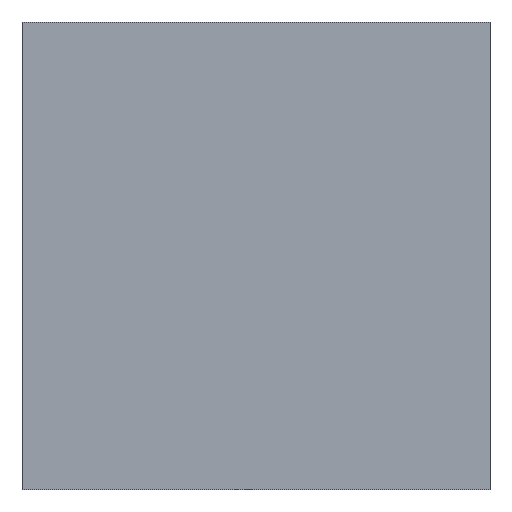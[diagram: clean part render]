
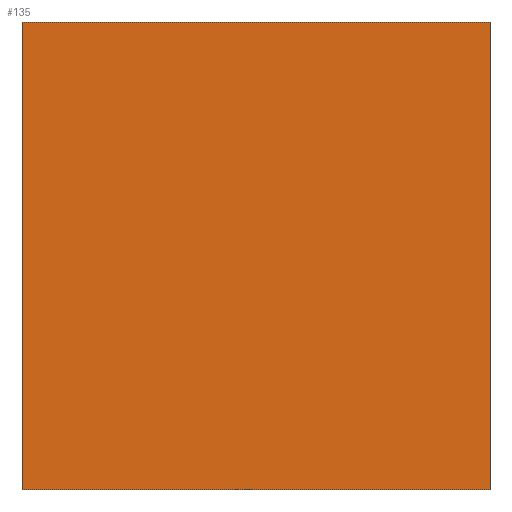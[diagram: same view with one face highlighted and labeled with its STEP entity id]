
A CAD part, front view. The second image highlights one B-rep face of the part: STEP entity #135.
In plain terms, the highlighted planar face has unit normal (0, -1, 0).
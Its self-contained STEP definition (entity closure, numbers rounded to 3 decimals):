
#21 = EDGE_CURVE('',#22,#24,#26,.T.);
#22 = VERTEX_POINT('',#23);
#23 = CARTESIAN_POINT('',(-32.,-39.,9.8));
#24 = VERTEX_POINT('',#25);
#25 = CARTESIAN_POINT('',(-32.,-39.,11.6));
#26 = SURFACE_CURVE('',#27,(#31,#43),.PCURVE_S1.);
#27 = LINE('',#28,#29);
#28 = CARTESIAN_POINT('',(-32.,-39.,9.8));
#29 = VECTOR('',#30,1.);
#30 = DIRECTION('',(0.,0.,1.));
#31 = PCURVE('',#32,#37);
#32 = PLANE('',#33);
#33 = AXIS2_PLACEMENT_3D('',#34,#35,#36);
#34 = CARTESIAN_POINT('',(-32.,-39.,9.8));
#35 = DIRECTION('',(1.,0.,0.));
#36 = DIRECTION('',(0.,0.,1.));
#37 = DEFINITIONAL_REPRESENTATION('',(#38),#42);
#38 = LINE('',#39,#40);
#39 = CARTESIAN_POINT('',(0.,0.));
#40 = VECTOR('',#41,1.);
#41 = DIRECTION('',(1.,0.));
#42 = ( GEOMETRIC_REPRESENTATION_CONTEXT(2) 
PARAMETRIC_REPRESENTATION_CONTEXT() REPRESENTATION_CONTEXT('2D SPACE',''
  ) );
#43 = PCURVE('',#44,#49);
#44 = PLANE('',#45);
#45 = AXIS2_PLACEMENT_3D('',#46,#47,#48);
#46 = CARTESIAN_POINT('',(-32.,-39.,9.8));
#47 = DIRECTION('',(0.,1.,0.));
#48 = DIRECTION('',(0.,-0.,1.));
#49 = DEFINITIONAL_REPRESENTATION('',(#50),#54);
#50 = LINE('',#51,#52);
#51 = CARTESIAN_POINT('',(0.,0.));
#52 = VECTOR('',#53,1.);
#53 = DIRECTION('',(1.,0.));
#54 = ( GEOMETRIC_REPRESENTATION_CONTEXT(2) 
PARAMETRIC_REPRESENTATION_CONTEXT() REPRESENTATION_CONTEXT('2D SPACE',''
  ) );
#72 = PLANE('',#73);
#73 = AXIS2_PLACEMENT_3D('',#74,#75,#76);
#74 = CARTESIAN_POINT('',(-32.,-39.,9.8));
#75 = DIRECTION('',(0.,0.,1.));
#76 = DIRECTION('',(1.,0.,-0.));
#124 = PLANE('',#125);
#125 = AXIS2_PLACEMENT_3D('',#126,#127,#128);
#126 = CARTESIAN_POINT('',(-32.,-39.,11.6));
#127 = DIRECTION('',(0.,0.,1.));
#128 = DIRECTION('',(1.,0.,-0.));
#135 = ADVANCED_FACE('',(#136),#44,.F.);
#136 = FACE_BOUND('',#137,.F.);
#137 = EDGE_LOOP('',(#138,#161,#162,#185));
#138 = ORIENTED_EDGE('',*,*,#139,.F.);
#139 = EDGE_CURVE('',#22,#140,#142,.T.);
#140 = VERTEX_POINT('',#141);
#141 = CARTESIAN_POINT('',(-30.2,-39.,9.8));
#142 = SURFACE_CURVE('',#143,(#147,#154),.PCURVE_S1.);
#143 = LINE('',#144,#145);
#144 = CARTESIAN_POINT('',(-32.,-39.,9.8));
#145 = VECTOR('',#146,1.);
#146 = DIRECTION('',(1.,0.,0.));
#147 = PCURVE('',#44,#148);
#148 = DEFINITIONAL_REPRESENTATION('',(#149),#153);
#149 = LINE('',#150,#151);
#150 = CARTESIAN_POINT('',(0.,0.));
#151 = VECTOR('',#152,1.);
#152 = DIRECTION('',(0.,1.));
#153 = ( GEOMETRIC_REPRESENTATION_CONTEXT(2) 
PARAMETRIC_REPRESENTATION_CONTEXT() REPRESENTATION_CONTEXT('2D SPACE',''
  ) );
#154 = PCURVE('',#72,#155);
#155 = DEFINITIONAL_REPRESENTATION('',(#156),#160);
#156 = LINE('',#157,#158);
#157 = CARTESIAN_POINT('',(0.,0.));
#158 = VECTOR('',#159,1.);
#159 = DIRECTION('',(1.,0.));
#160 = ( GEOMETRIC_REPRESENTATION_CONTEXT(2) 
PARAMETRIC_REPRESENTATION_CONTEXT() REPRESENTATION_CONTEXT('2D SPACE',''
  ) );
#161 = ORIENTED_EDGE('',*,*,#21,.T.);
#162 = ORIENTED_EDGE('',*,*,#163,.T.);
#163 = EDGE_CURVE('',#24,#164,#166,.T.);
#164 = VERTEX_POINT('',#165);
#165 = CARTESIAN_POINT('',(-30.2,-39.,11.6));
#166 = SURFACE_CURVE('',#167,(#171,#178),.PCURVE_S1.);
#167 = LINE('',#168,#169);
#168 = CARTESIAN_POINT('',(-32.,-39.,11.6));
#169 = VECTOR('',#170,1.);
#170 = DIRECTION('',(1.,0.,0.));
#171 = PCURVE('',#44,#172);
#172 = DEFINITIONAL_REPRESENTATION('',(#173),#177);
#173 = LINE('',#174,#175);
#174 = CARTESIAN_POINT('',(1.8,0.));
#175 = VECTOR('',#176,1.);
#176 = DIRECTION('',(0.,1.));
#177 = ( GEOMETRIC_REPRESENTATION_CONTEXT(2) 
PARAMETRIC_REPRESENTATION_CONTEXT() REPRESENTATION_CONTEXT('2D SPACE',''
  ) );
#178 = PCURVE('',#124,#179);
#179 = DEFINITIONAL_REPRESENTATION('',(#180),#184);
#180 = LINE('',#181,#182);
#181 = CARTESIAN_POINT('',(0.,0.));
#182 = VECTOR('',#183,1.);
#183 = DIRECTION('',(1.,0.));
#184 = ( GEOMETRIC_REPRESENTATION_CONTEXT(2) 
PARAMETRIC_REPRESENTATION_CONTEXT() REPRESENTATION_CONTEXT('2D SPACE',''
  ) );
#185 = ORIENTED_EDGE('',*,*,#186,.F.);
#186 = EDGE_CURVE('',#140,#164,#187,.T.);
#187 = SURFACE_CURVE('',#188,(#192,#199),.PCURVE_S1.);
#188 = LINE('',#189,#190);
#189 = CARTESIAN_POINT('',(-30.2,-39.,9.8));
#190 = VECTOR('',#191,1.);
#191 = DIRECTION('',(0.,0.,1.));
#192 = PCURVE('',#44,#193);
#193 = DEFINITIONAL_REPRESENTATION('',(#194),#198);
#194 = LINE('',#195,#196);
#195 = CARTESIAN_POINT('',(0.,1.8));
#196 = VECTOR('',#197,1.);
#197 = DIRECTION('',(1.,0.));
#198 = ( GEOMETRIC_REPRESENTATION_CONTEXT(2) 
PARAMETRIC_REPRESENTATION_CONTEXT() REPRESENTATION_CONTEXT('2D SPACE',''
  ) );
#199 = PCURVE('',#200,#205);
#200 = PLANE('',#201);
#201 = AXIS2_PLACEMENT_3D('',#202,#203,#204);
#202 = CARTESIAN_POINT('',(-30.2,-39.,9.8));
#203 = DIRECTION('',(1.,0.,0.));
#204 = DIRECTION('',(0.,0.,1.));
#205 = DEFINITIONAL_REPRESENTATION('',(#206),#210);
#206 = LINE('',#207,#208);
#207 = CARTESIAN_POINT('',(0.,0.));
#208 = VECTOR('',#209,1.);
#209 = DIRECTION('',(1.,0.));
#210 = ( GEOMETRIC_REPRESENTATION_CONTEXT(2) 
PARAMETRIC_REPRESENTATION_CONTEXT() REPRESENTATION_CONTEXT('2D SPACE',''
  ) );
